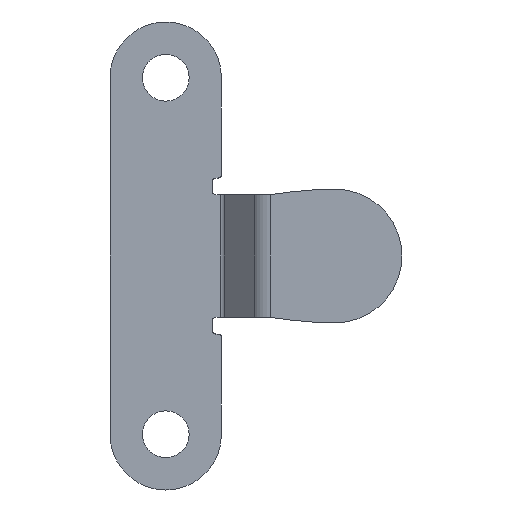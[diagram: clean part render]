
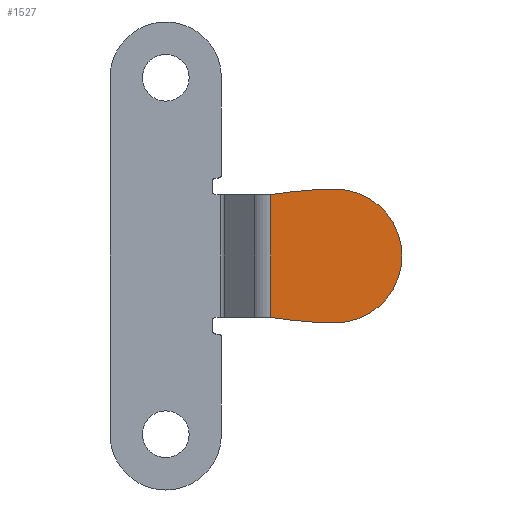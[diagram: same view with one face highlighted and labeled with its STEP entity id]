
A CAD part, front view. The second image highlights one B-rep face of the part: STEP entity #1527.
In plain terms, the highlighted planar face has unit normal (0, -1, 0).
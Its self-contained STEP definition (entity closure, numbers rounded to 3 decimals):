
#23 = CARTESIAN_POINT ( 'NONE',  ( 0., -3.5, 0. ) ) ;
#33 = FACE_OUTER_BOUND ( 'NONE', #687, .T. ) ;
#34 = PLANE ( 'NONE',  #1299 ) ;
#36 = DIRECTION ( 'NONE',  ( 0., 1., 0. ) ) ;
#37 = DIRECTION ( 'NONE',  ( 0., 0., 1. ) ) ;
#94 = CARTESIAN_POINT ( 'NONE',  ( 15.7, -3.5, -17.996 ) ) ;
#95 = DIRECTION ( 'NONE',  ( 0., 1., 0. ) ) ;
#96 = DIRECTION ( 'NONE',  ( 0., 0., 1. ) ) ;
#157 = EDGE_CURVE ( 'NONE', #411, #412, #1445, .T. ) ;
#180 = EDGE_CURVE ( 'NONE', #410, #411, #1376, .T. ) ;
#219 = ORIENTED_EDGE ( 'NONE', *, *, #1558, .F. ) ;
#225 = ORIENTED_EDGE ( 'NONE', *, *, #180, .F. ) ;
#233 = ORIENTED_EDGE ( 'NONE', *, *, #796, .T. ) ;
#243 = ORIENTED_EDGE ( 'NONE', *, *, #1541, .F. ) ;
#248 = ORIENTED_EDGE ( 'NONE', *, *, #1560, .F. ) ;
#259 = DIRECTION ( 'NONE',  ( 0., 0., 1. ) ) ;
#260 = DIRECTION ( 'NONE',  ( 0., 1., 0. ) ) ;
#261 = CARTESIAN_POINT ( 'NONE',  ( 15.2, -3.5, 16. ) ) ;
#265 = ORIENTED_EDGE ( 'NONE', *, *, #157, .F. ) ;
#410 = VERTEX_POINT ( 'NONE', #845 ) ;
#411 = VERTEX_POINT ( 'NONE', #846 ) ;
#412 = VERTEX_POINT ( 'NONE', #847 ) ;
#485 = VERTEX_POINT ( 'NONE', #1180 ) ;
#486 = VERTEX_POINT ( 'NONE', #1181 ) ;
#497 = VERTEX_POINT ( 'NONE', #1192 ) ;
#687 = EDGE_LOOP ( 'NONE', ( #243, #233, #248, #265, #225, #219 ) ) ;
#757 = AXIS2_PLACEMENT_3D ( 'NONE', #1113, #1114, #1115 ) ;
#759 = CIRCLE ( 'NONE', #757, 40. ) ;
#760 = AXIS2_PLACEMENT_3D ( 'NONE', #1109, #1110, #1111 ) ;
#763 = CIRCLE ( 'NONE', #760, 6. ) ;
#796 = EDGE_CURVE ( 'NONE', #497, #486, #895, .T. ) ;
#809 = CARTESIAN_POINT ( 'NONE',  ( 15.2, -3.5, 16. ) ) ;
#810 = DIRECTION ( 'NONE',  ( 0., 1., 0. ) ) ;
#811 = DIRECTION ( 'NONE',  ( 0., 0., 1. ) ) ;
#845 = CARTESIAN_POINT ( 'NONE',  ( 15.2, -3.5, 22. ) ) ;
#846 = CARTESIAN_POINT ( 'NONE',  ( 15.2, -3.5, 10. ) ) ;
#847 = CARTESIAN_POINT ( 'NONE',  ( 15.112, -3.5, 10.001 ) ) ;
#895 = LINE ( 'NONE', #897, #1347 ) ;
#897 = CARTESIAN_POINT ( 'NONE',  ( 9.412, -3.5, 10.5 ) ) ;
#898 = DIRECTION ( 'NONE',  ( 0., 0., -1. ) ) ;
#1109 = CARTESIAN_POINT ( 'NONE',  ( 15.2, -3.5, 16. ) ) ;
#1110 = DIRECTION ( 'NONE',  ( 0., 1., 0. ) ) ;
#1111 = DIRECTION ( 'NONE',  ( 0., 0., 1. ) ) ;
#1113 = CARTESIAN_POINT ( 'NONE',  ( 15.7, -3.5, 49.996 ) ) ;
#1114 = DIRECTION ( 'NONE',  ( 0., 1., 0. ) ) ;
#1115 = DIRECTION ( 'NONE',  ( 0., 0., -1. ) ) ;
#1180 = CARTESIAN_POINT ( 'NONE',  ( 15.112, -3.5, 21.999 ) ) ;
#1181 = CARTESIAN_POINT ( 'NONE',  ( 9.412, -3.5, 10.494 ) ) ;
#1192 = CARTESIAN_POINT ( 'NONE',  ( 9.412, -3.5, 21.506 ) ) ;
#1283 = AXIS2_PLACEMENT_3D ( 'NONE', #94, #95, #96 ) ;
#1286 = CIRCLE ( 'NONE', #1283, 40. ) ;
#1299 = AXIS2_PLACEMENT_3D ( 'NONE', #23, #36, #37 ) ;
#1347 = VECTOR ( 'NONE', #898, 1000. ) ;
#1376 = CIRCLE ( 'NONE', #1436, 6. ) ;
#1428 = AXIS2_PLACEMENT_3D ( 'NONE', #261, #260, #259 ) ;
#1436 = AXIS2_PLACEMENT_3D ( 'NONE', #809, #810, #811 ) ;
#1445 = CIRCLE ( 'NONE', #1428, 6. ) ;
#1527 = ADVANCED_FACE ( 'NONE', ( #33 ), #34, .F. ) ;
#1541 = EDGE_CURVE ( 'NONE', #497, #485, #1286, .T. ) ;
#1558 = EDGE_CURVE ( 'NONE', #485, #410, #763, .T. ) ;
#1560 = EDGE_CURVE ( 'NONE', #412, #486, #759, .T. ) ;
